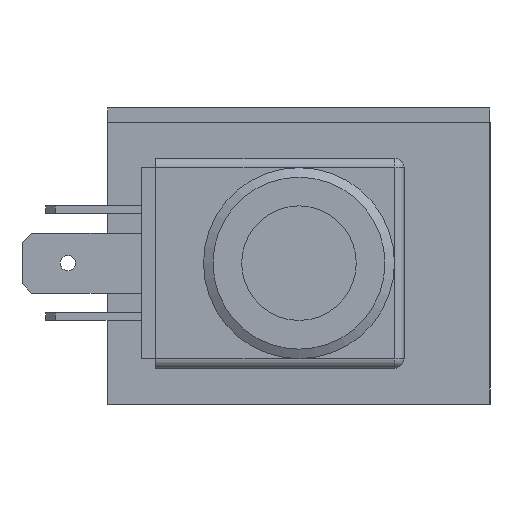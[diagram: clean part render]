
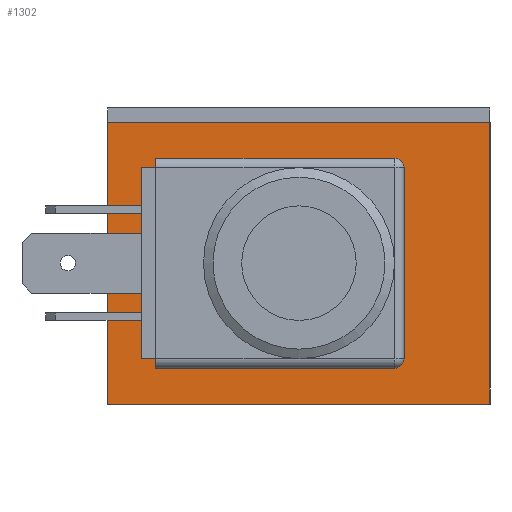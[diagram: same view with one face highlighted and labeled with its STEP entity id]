
A CAD part, left-side view. The second image highlights one B-rep face of the part: STEP entity #1302.
In plain terms, the highlighted planar face has unit normal (-1, 0, 0).
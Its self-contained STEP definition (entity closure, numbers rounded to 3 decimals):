
#662=CARTESIAN_POINT('',(-55.0,11.,-8.75));
#663=VERTEX_POINT('',#662);
#670=CARTESIAN_POINT('',(-55.0,11.0,-23.75));
#671=VERTEX_POINT('',#670);
#672=CARTESIAN_POINT('',(-55.0,11.0,-23.75));
#673=DIRECTION('',(0.0,0.0,1.0));
#674=VECTOR('',#673,15.);
#675=LINE('',#672,#674);
#676=EDGE_CURVE('',#671,#663,#675,.T.);
#704=CARTESIAN_POINT('',(-55.0,7.5,-5.25));
#705=VERTEX_POINT('',#704);
#712=CARTESIAN_POINT('',(-55.0,7.5,-8.75));
#713=DIRECTION('',(1.0,0.0,0.0));
#714=DIRECTION('',(0.0,0.0,1.0));
#715=AXIS2_PLACEMENT_3D('',#712,#713,#714);
#716=CIRCLE('',#715,3.5);
#717=EDGE_CURVE('',#663,#705,#716,.T.);
#736=CARTESIAN_POINT('',(-55.0,-7.5,-5.25));
#737=VERTEX_POINT('',#736);
#744=CARTESIAN_POINT('',(-55.0,7.5,-5.25));
#745=DIRECTION('',(0.0,-1.0,0.0));
#746=VECTOR('',#745,15.);
#747=LINE('',#744,#746);
#748=EDGE_CURVE('',#705,#737,#747,.T.);
#768=CARTESIAN_POINT('',(-55.0,-11.,-8.75));
#769=VERTEX_POINT('',#768);
#776=CARTESIAN_POINT('',(-55.0,-7.5,-8.75));
#777=DIRECTION('',(1.0,0.0,0.0));
#778=DIRECTION('',(0.0,-1.0,0.0));
#779=AXIS2_PLACEMENT_3D('',#776,#777,#778);
#780=CIRCLE('',#779,3.5);
#781=EDGE_CURVE('',#737,#769,#780,.T.);
#800=CARTESIAN_POINT('',(-55.0,-11.0,-23.75));
#801=VERTEX_POINT('',#800);
#808=CARTESIAN_POINT('',(-55.0,-11.,-8.75));
#809=DIRECTION('',(0.0,0.0,-1.0));
#810=VECTOR('',#809,15.);
#811=LINE('',#808,#810);
#812=EDGE_CURVE('',#769,#801,#811,.T.);
#832=CARTESIAN_POINT('',(-55.0,-7.5,-27.25));
#833=VERTEX_POINT('',#832);
#840=CARTESIAN_POINT('',(-55.0,-7.5,-23.75));
#841=DIRECTION('',(1.0,0.0,0.0));
#842=DIRECTION('',(0.0,0.0,-1.0));
#843=AXIS2_PLACEMENT_3D('',#840,#841,#842);
#844=CIRCLE('',#843,3.5);
#845=EDGE_CURVE('',#801,#833,#844,.T.);
#864=CARTESIAN_POINT('',(-55.0,7.5,-27.25));
#865=VERTEX_POINT('',#864);
#872=CARTESIAN_POINT('',(-55.0,-7.5,-27.25));
#873=DIRECTION('',(0.0,1.0,0.0));
#874=VECTOR('',#873,15.);
#875=LINE('',#872,#874);
#876=EDGE_CURVE('',#833,#865,#875,.T.);
#895=CARTESIAN_POINT('',(-55.0,7.5,-23.75));
#896=DIRECTION('',(1.0,0.0,0.0));
#897=DIRECTION('',(0.0,1.0,0.0));
#898=AXIS2_PLACEMENT_3D('',#895,#896,#897);
#899=CIRCLE('',#898,3.5);
#900=EDGE_CURVE('',#865,#671,#899,.T.);
#1162=CARTESIAN_POINT('',(-55.0,20.,-1.5));
#1163=VERTEX_POINT('',#1162);
#1164=CARTESIAN_POINT('',(-55.0,-20.,-1.5));
#1165=VERTEX_POINT('',#1164);
#1166=CARTESIAN_POINT('',(-55.0,20.,-1.5));
#1167=DIRECTION('',(0.0,-1.0,0.0));
#1168=VECTOR('',#1167,40.);
#1169=LINE('',#1166,#1168);
#1170=EDGE_CURVE('',#1163,#1165,#1169,.T.);
#1202=CARTESIAN_POINT('',(-55.0,-20.,-31.));
#1203=VERTEX_POINT('',#1202);
#1204=CARTESIAN_POINT('',(-55.0,-20.,-1.5));
#1205=DIRECTION('',(0.0,0.0,-1.0));
#1206=VECTOR('',#1205,29.5);
#1207=LINE('',#1204,#1206);
#1208=EDGE_CURVE('',#1165,#1203,#1207,.T.);
#1233=CARTESIAN_POINT('',(-55.0,20.,-31.));
#1234=VERTEX_POINT('',#1233);
#1235=CARTESIAN_POINT('',(-55.0,-20.,-31.));
#1236=DIRECTION('',(0.0,1.0,0.0));
#1237=VECTOR('',#1236,40.);
#1238=LINE('',#1235,#1237);
#1239=EDGE_CURVE('',#1203,#1234,#1238,.T.);
#1264=CARTESIAN_POINT('',(-55.0,20.,-31.));
#1265=DIRECTION('',(0.0,0.0,1.0));
#1266=VECTOR('',#1265,29.5);
#1267=LINE('',#1264,#1266);
#1268=EDGE_CURVE('',#1234,#1163,#1267,.T.);
#1281=CARTESIAN_POINT('',(-55.0,0.,-16.25));
#1282=DIRECTION('',(1.0,0.0,0.0));
#1283=DIRECTION('',(0.0,0.0,-1.0));
#1284=AXIS2_PLACEMENT_3D('',#1281,#1282,#1283);
#1285=PLANE('',#1284);
#1286=ORIENTED_EDGE('',*,*,#1170,.F.);
#1287=ORIENTED_EDGE('',*,*,#1268,.F.);
#1288=ORIENTED_EDGE('',*,*,#1239,.F.);
#1289=ORIENTED_EDGE('',*,*,#1208,.F.);
#1290=EDGE_LOOP('',(#1286,#1287,#1288,#1289));
#1291=FACE_OUTER_BOUND('',#1290,.T.);
#1292=ORIENTED_EDGE('',*,*,#676,.T.);
#1293=ORIENTED_EDGE('',*,*,#717,.T.);
#1294=ORIENTED_EDGE('',*,*,#748,.T.);
#1295=ORIENTED_EDGE('',*,*,#781,.T.);
#1296=ORIENTED_EDGE('',*,*,#812,.T.);
#1297=ORIENTED_EDGE('',*,*,#845,.T.);
#1298=ORIENTED_EDGE('',*,*,#876,.T.);
#1299=ORIENTED_EDGE('',*,*,#900,.T.);
#1300=EDGE_LOOP('',(#1292,#1293,#1294,#1295,#1296,#1297,#1298,#1299));
#1301=FACE_BOUND('',#1300,.T.);
#1302=ADVANCED_FACE('',(#1291,#1301),#1285,.F.);
